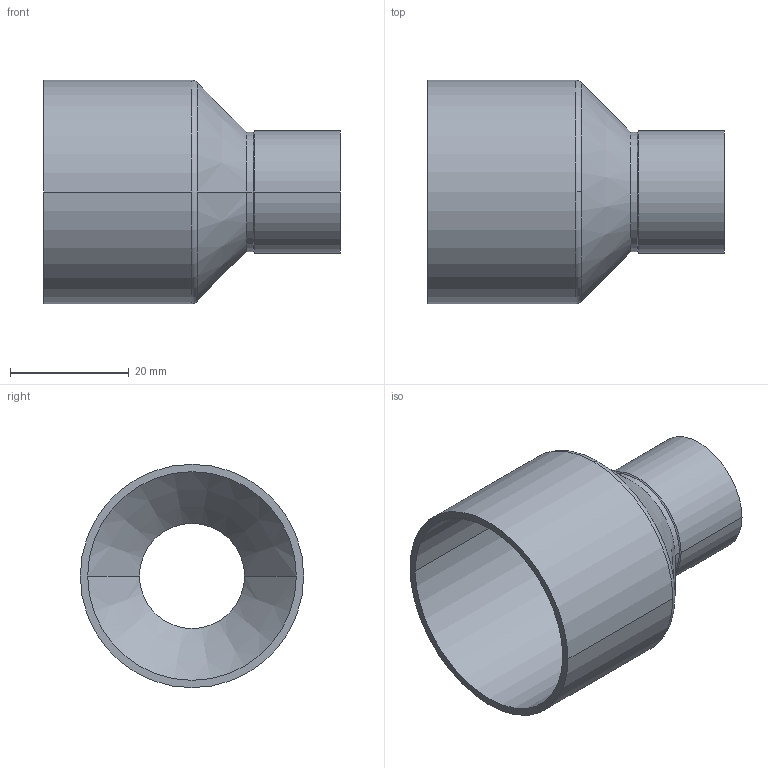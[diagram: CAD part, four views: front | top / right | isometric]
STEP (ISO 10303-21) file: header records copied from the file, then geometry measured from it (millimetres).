
FILE_DESCRIPTION((''),'2;1');
FILE_NAME('G:\Technics\CAD\Bauteile\Serie 15240\152403518.stp','2005-10-21T12:51:12',('boden'),(''),'Autodesk Inventor 8','Autodesk Inventor 8','');
FILE_SCHEMA(('AUTOMOTIVE_DESIGN { 1 0 10303 214 1 1 1 1 }'));
Length unit declared in the file: millimetre
Products named in the file (1): 152403518
Bounding box: 50 x 37.65 x 37.65 mm (x, y, z)
Volume: 6168.7 mm3; surface area: 10088.7 mm2
Topology: 1 solids, 1 shells, 24 faces, 52 edges, 30 vertices
Faces by surface type: cylinder 12, cone 8, torus 2, plane 2
Entity records: 683 total; most frequent: DIRECTION 134, CARTESIAN_POINT 107, ORIENTED_EDGE 104, AXIS2_PLACEMENT_3D 57, EDGE_CURVE 52, CIRCLE 32, VERTEX_POINT 30, EDGE_LOOP 26
